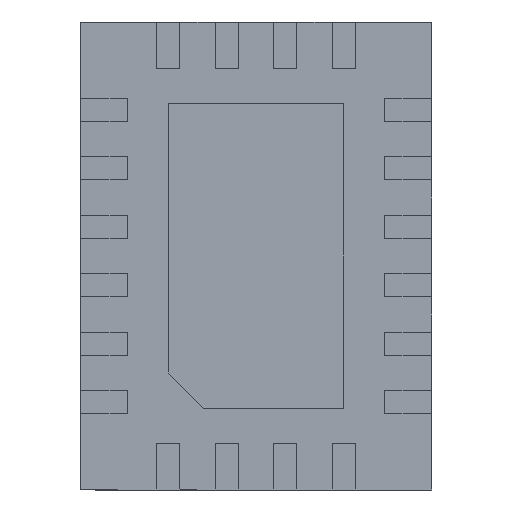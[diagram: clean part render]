
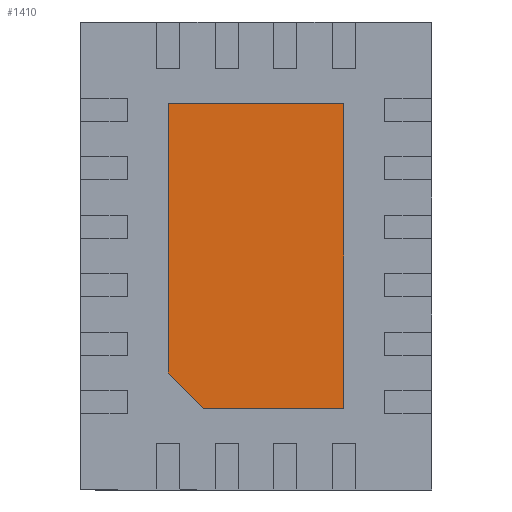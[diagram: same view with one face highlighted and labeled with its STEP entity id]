
A CAD part, front view. The second image highlights one B-rep face of the part: STEP entity #1410.
In plain terms, the highlighted planar face has unit normal (0, -1, 0).
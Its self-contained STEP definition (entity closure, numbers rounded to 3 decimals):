
#54 = CARTESIAN_POINT ( 'NONE',  ( 0., 0., 0. ) ) ;
#78 = VECTOR ( 'NONE', #3643, 1000. ) ;
#326 = CARTESIAN_POINT ( 'NONE',  ( 0.75, 0., -1.3 ) ) ;
#358 = DIRECTION ( 'NONE',  ( -1., 0., 0. ) ) ;
#396 = AXIS2_PLACEMENT_3D ( 'NONE', #54, #2313, #9053 ) ;
#537 = CARTESIAN_POINT ( 'NONE',  ( -0.75, 0., -1.3 ) ) ;
#811 = VERTEX_POINT ( 'NONE', #326 ) ;
#890 = DIRECTION ( 'NONE',  ( 0., 0., 1. ) ) ;
#1134 = LINE ( 'NONE', #4528, #7851 ) ;
#1216 = DIRECTION ( 'NONE',  ( 1., 0., 0. ) ) ;
#1272 = VERTEX_POINT ( 'NONE', #3552 ) ;
#1410 = ADVANCED_FACE ( 'NONE', ( #6963 ), #7648, .T. ) ;
#1866 = CARTESIAN_POINT ( 'NONE',  ( 0.75, 0., -1.3 ) ) ;
#1988 = ORIENTED_EDGE ( 'NONE', *, *, #5670, .T. ) ;
#2281 = CARTESIAN_POINT ( 'NONE',  ( -0.75, 0., -1. ) ) ;
#2313 = DIRECTION ( 'NONE',  ( 0., -1., 0. ) ) ;
#2628 = VERTEX_POINT ( 'NONE', #4998 ) ;
#2706 = ORIENTED_EDGE ( 'NONE', *, *, #8383, .T. ) ;
#2817 = VECTOR ( 'NONE', #358, 1000. ) ;
#3111 = LINE ( 'NONE', #8522, #2817 ) ;
#3156 = EDGE_LOOP ( 'NONE', ( #9222, #5641, #1988, #2706, #3479 ) ) ;
#3366 = DIRECTION ( 'NONE',  ( 0.707, 0., -0.707 ) ) ;
#3479 = ORIENTED_EDGE ( 'NONE', *, *, #7424, .T. ) ;
#3552 = CARTESIAN_POINT ( 'NONE',  ( 0.75, 0., 1.3 ) ) ;
#3643 = DIRECTION ( 'NONE',  ( 0., 0., -1. ) ) ;
#4186 = VERTEX_POINT ( 'NONE', #5322 ) ;
#4258 = LINE ( 'NONE', #1866, #7195 ) ;
#4528 = CARTESIAN_POINT ( 'NONE',  ( 0.75, 0., -1.3 ) ) ;
#4540 = VERTEX_POINT ( 'NONE', #2281 ) ;
#4941 = EDGE_CURVE ( 'NONE', #4540, #2628, #6279, .T. ) ;
#4998 = CARTESIAN_POINT ( 'NONE',  ( -0.45, 0., -1.3 ) ) ;
#5322 = CARTESIAN_POINT ( 'NONE',  ( -0.75, 0., 1.3 ) ) ;
#5641 = ORIENTED_EDGE ( 'NONE', *, *, #4941, .T. ) ;
#5670 = EDGE_CURVE ( 'NONE', #2628, #811, #4258, .T. ) ;
#6267 = VECTOR ( 'NONE', #3366, 1000. ) ;
#6279 = LINE ( 'NONE', #9142, #6267 ) ;
#6539 = LINE ( 'NONE', #537, #78 ) ;
#6963 = FACE_OUTER_BOUND ( 'NONE', #3156, .T. ) ;
#7195 = VECTOR ( 'NONE', #1216, 1000. ) ;
#7424 = EDGE_CURVE ( 'NONE', #1272, #4186, #3111, .T. ) ;
#7590 = EDGE_CURVE ( 'NONE', #4186, #4540, #6539, .T. ) ;
#7648 = PLANE ( 'NONE',  #396 ) ;
#7851 = VECTOR ( 'NONE', #890, 1000. ) ;
#8383 = EDGE_CURVE ( 'NONE', #811, #1272, #1134, .T. ) ;
#8522 = CARTESIAN_POINT ( 'NONE',  ( 0.75, 0., 1.3 ) ) ;
#9053 = DIRECTION ( 'NONE',  ( 0., 0., -1. ) ) ;
#9142 = CARTESIAN_POINT ( 'NONE',  ( -0.875, 0., -0.875 ) ) ;
#9222 = ORIENTED_EDGE ( 'NONE', *, *, #7590, .T. ) ;
